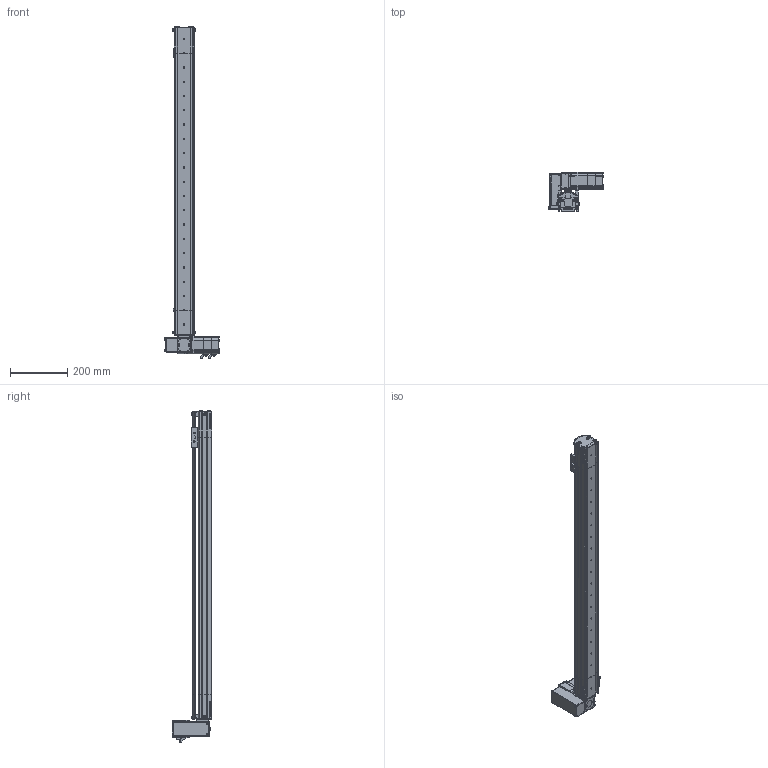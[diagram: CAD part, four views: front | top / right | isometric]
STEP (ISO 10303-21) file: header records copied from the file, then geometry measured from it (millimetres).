
FILE_DESCRIPTION (( 'STEP AP214' ), '1' );
FILE_NAME ('S07 TBN RT S900.STEP', '2010-06-29T11:42:40', ( 'Conseil Régional Haute-Normandie' ), ( 'Conseil Régional Haute-Normandie' ), 'SwSTEP 2.0', 'SolidWorks 2010', '' );
FILE_SCHEMA (( 'AUTOMOTIVE_DESIGN' ));
Length unit declared in the file: millimetre
Products named in the file (41): vis M5 L16_Default; Chariot; guide; CHariot_Default; couroie tail_Default; vis M5 L12_Default; Poulie_Default; T皻e de poulie_Default; couvercle tail TB; S07 TB tail (78)_Default; Vis M5 L16-2_Default; Cvis M5 L30_Default; VisM3_Default; plaque de bout_Default; corp tail TB_Default; Conecteur 60BLDC_Default; Axe 60BLDC_Default; Conecteur2 60BLDC_Default; P4_Default; vis M5 L5_Default; Couroie t皻e_Default; Pièce5^S07 RT(146); P3 90A_Default; P2 90A_Default; Plaque racord_Default; P1_Default; GMB 60 90 310_Default; renvoi RT_Default; Corp S07 course 900_Default; Course C L900_Default; S07 TBN RT S900; S07 RT(146)_Default; couvercle S07 course 900 ; Couroie  course 900_Default; couvercle moteur S07 TB; plaque de bout RT_Default; corp moteur TB(146)_Default; cache t皻e_Default; Poulie head_Default; cache t皻e axe_Default
Assembly tree (80 placements, depth 4):
  Pièce5^S07 RT(146)
  S07 TBN RT S900
    S07 TB tail (78)_Default
      vis M5 L12_Default  x10
      Poulie_Default
        T皻e de poulie_Default
        Poulie_Default
      couroie tail_Default
      plaque de bout_Default
      couvercle tail TB
      corp tail TB_Default
    S07 RT(146)_Default
      Vis M5 L16-2_Default  x8
      vis M5 L5_Default  x6
      couvercle moteur S07 TB
      plaque de bout RT_Default
      GMB 60 90 310_Default
        Conecteur 60BLDC_Default
        P4_Default
        P2 90A_Default
        VisM3_Default  x12
        P3 90A_Default
        P1_Default
        Conecteur2 60BLDC_Default
        Axe 60BLDC_Default
      cache t皻e_Default  x2
      Poulie head_Default
      vis M5 L12_Default  x6
      Cvis M5 L30_Default  x2
      renvoi RT_Default
      cache t皻e axe_Default
      Plaque racord_Default
      Couroie t皻e_Default
      corp moteur TB(146)_Default
    Course C L900_Default
      couvercle S07 course 900 
      Couroie  course 900_Default
      Corp S07 course 900_Default
    CHariot_Default
      vis M5 L16_Default  x2
      guide
      Chariot
Bounding box: 190.2 x 139.5 x 1162 mm (x, y, z)
Volume: 2502184.6 mm3; surface area: 1056510.1 mm2
Topology: 102 solids, 102 shells, 3928 faces, 9780 edges, 6317 vertices
Faces by surface type: plane 2232, cylinder 766, bspline 677, cone 125, torus 124, sphere 4
Entity records: 167349 total; most frequent: CARTESIAN_POINT 75219, ORIENTED_EDGE 15472, DIRECTION 12323, EDGE_CURVE 7736, VERTEX_POINT 5105, LINE 5049, VECTOR 5049, AXIS2_PLACEMENT_3D 3637
